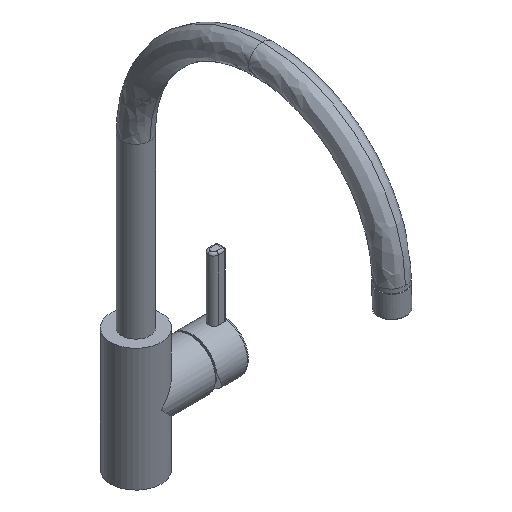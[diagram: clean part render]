
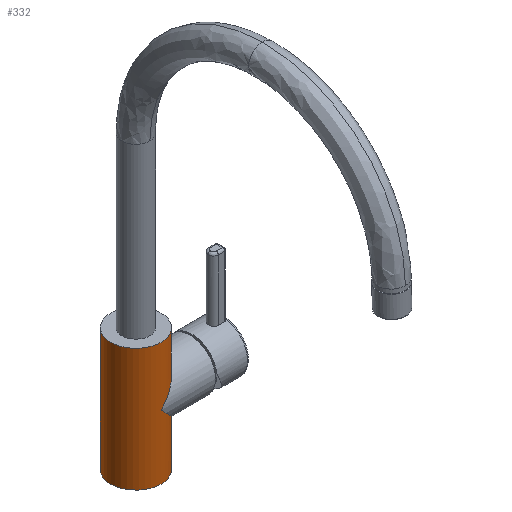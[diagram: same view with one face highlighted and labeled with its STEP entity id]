
A CAD part, isometric view. The second image highlights one B-rep face of the part: STEP entity #332.
In plain terms, the highlighted cylindrical face has radius 22.5 mm (diameter 45 mm), a full revolution.
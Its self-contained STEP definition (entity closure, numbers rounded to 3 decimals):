
#13=(
BOUNDED_CURVE()
B_SPLINE_CURVE(2,(#6411,#6412,#6413),.UNSPECIFIED.,.F.,.F.)
B_SPLINE_CURVE_WITH_KNOTS((3,3),(0.,54.32),.UNSPECIFIED.)
CURVE()
GEOMETRIC_REPRESENTATION_ITEM()
RATIONAL_B_SPLINE_CURVE((1.,0.707,1.))
REPRESENTATION_ITEM('')
);
#14=(
BOUNDED_CURVE()
B_SPLINE_CURVE(2,(#6418,#6419,#6420),.UNSPECIFIED.,.F.,.F.)
B_SPLINE_CURVE_WITH_KNOTS((3,3),(-54.32,0.),.UNSPECIFIED.)
CURVE()
GEOMETRIC_REPRESENTATION_ITEM()
RATIONAL_B_SPLINE_CURVE((1.,0.707,1.))
REPRESENTATION_ITEM('')
);
#15=(
BOUNDED_CURVE()
B_SPLINE_CURVE(2,(#6421,#6422,#6423),.UNSPECIFIED.,.F.,.F.)
B_SPLINE_CURVE_WITH_KNOTS((3,3),(-54.32,0.),.UNSPECIFIED.)
CURVE()
GEOMETRIC_REPRESENTATION_ITEM()
RATIONAL_B_SPLINE_CURVE((1.,0.707,1.))
REPRESENTATION_ITEM('')
);
#16=(
BOUNDED_CURVE()
B_SPLINE_CURVE(2,(#6424,#6425,#6426),.UNSPECIFIED.,.F.,.F.)
B_SPLINE_CURVE_WITH_KNOTS((3,3),(-54.32,0.),.UNSPECIFIED.)
CURVE()
GEOMETRIC_REPRESENTATION_ITEM()
RATIONAL_B_SPLINE_CURVE((1.,0.707,1.))
REPRESENTATION_ITEM('')
);
#69=CIRCLE('',#3718,22.5);
#70=CIRCLE('',#3719,22.5);
#127=CYLINDRICAL_SURFACE('',#3696,22.5);
#332=ADVANCED_FACE('',(#545),#127,.T.);
#545=FACE_OUTER_BOUND('',#756,.T.);
#756=EDGE_LOOP('',(#1691,#1692,#1693,#1694,#1695,#1696,#1697,#1698,#1699,
#1700));
#1691=ORIENTED_EDGE('',*,*,#2293,.T.);
#1692=ORIENTED_EDGE('',*,*,#2299,.T.);
#1693=ORIENTED_EDGE('',*,*,#2296,.F.);
#1694=ORIENTED_EDGE('',*,*,#2297,.F.);
#1695=ORIENTED_EDGE('',*,*,#2298,.T.);
#1696=ORIENTED_EDGE('',*,*,#2294,.T.);
#1697=ORIENTED_EDGE('',*,*,#2298,.F.);
#1698=ORIENTED_EDGE('',*,*,#2291,.F.);
#1699=ORIENTED_EDGE('',*,*,#2295,.F.);
#1700=ORIENTED_EDGE('',*,*,#2299,.F.);
#2291=EDGE_CURVE('',#3136,#3137,#13,.T.);
#2293=EDGE_CURVE('',#3140,#3140,#69,.T.);
#2294=EDGE_CURVE('',#3141,#3141,#70,.T.);
#2295=EDGE_CURVE('',#3139,#3136,#14,.T.);
#2296=EDGE_CURVE('',#3138,#3139,#15,.T.);
#2297=EDGE_CURVE('',#3137,#3138,#16,.T.);
#2298=EDGE_CURVE('',#3137,#3141,#2811,.T.);
#2299=EDGE_CURVE('',#3140,#3139,#2812,.T.);
#2811=B_SPLINE_CURVE_WITH_KNOTS('',1,(#6427,#6428),.UNSPECIFIED.,.F.,.F.,
(2,2),(90.57,120.57),.UNSPECIFIED.);
#2812=B_SPLINE_CURVE_WITH_KNOTS('',1,(#6429,#6430),.UNSPECIFIED.,.F.,.F.,
(2,2),(11.07,45.57),.UNSPECIFIED.);
#3136=VERTEX_POINT('',#6343);
#3137=VERTEX_POINT('',#6344);
#3138=VERTEX_POINT('',#6345);
#3139=VERTEX_POINT('',#6346);
#3140=VERTEX_POINT('',#6347);
#3141=VERTEX_POINT('',#6348);
#3696=AXIS2_PLACEMENT_3D('',#5513,#3938,$);
#3718=AXIS2_PLACEMENT_3D($,#6416,#3964,#3965);
#3719=AXIS2_PLACEMENT_3D($,#6417,#3966,#3967);
#3938=DIRECTION('',(0.,0.,1.));
#3964=DIRECTION('',(0.,0.,1.));
#3965=DIRECTION('',(1.,0.,0.));
#3966=DIRECTION('',(0.,0.,-1.));
#3967=DIRECTION('',(1.,0.,0.));
#5513=CARTESIAN_POINT('',(0.,0.,54.75));
#6343=CARTESIAN_POINT('',(0.,22.5,57.));
#6344=CARTESIAN_POINT('',(22.5,0.,79.5));
#6345=CARTESIAN_POINT('',(0.,-22.5,57.));
#6346=CARTESIAN_POINT('',(22.5,0.,34.5));
#6347=CARTESIAN_POINT('',(22.5,0.,0.));
#6348=CARTESIAN_POINT('',(22.5,0.,109.5));
#6411=CARTESIAN_POINT('',(0.,22.5,57.));
#6412=CARTESIAN_POINT('',(22.5,22.5,79.5));
#6413=CARTESIAN_POINT('',(22.5,0.,79.5));
#6416=CARTESIAN_POINT('',(0.,0.,0.));
#6417=CARTESIAN_POINT('',(0.,0.,109.5));
#6418=CARTESIAN_POINT('',(22.5,0.,34.5));
#6419=CARTESIAN_POINT('',(22.5,22.5,34.5));
#6420=CARTESIAN_POINT('',(0.,22.5,57.));
#6421=CARTESIAN_POINT('',(0.,-22.5,57.));
#6422=CARTESIAN_POINT('',(22.5,-22.5,34.5));
#6423=CARTESIAN_POINT('',(22.5,0.,34.5));
#6424=CARTESIAN_POINT('',(22.5,0.,79.5));
#6425=CARTESIAN_POINT('',(22.5,-22.5,79.5));
#6426=CARTESIAN_POINT('',(0.,-22.5,57.));
#6427=CARTESIAN_POINT('',(22.5,0.,79.5));
#6428=CARTESIAN_POINT('',(22.5,0.,109.5));
#6429=CARTESIAN_POINT('',(22.5,0.,0.));
#6430=CARTESIAN_POINT('',(22.5,0.,34.5));
